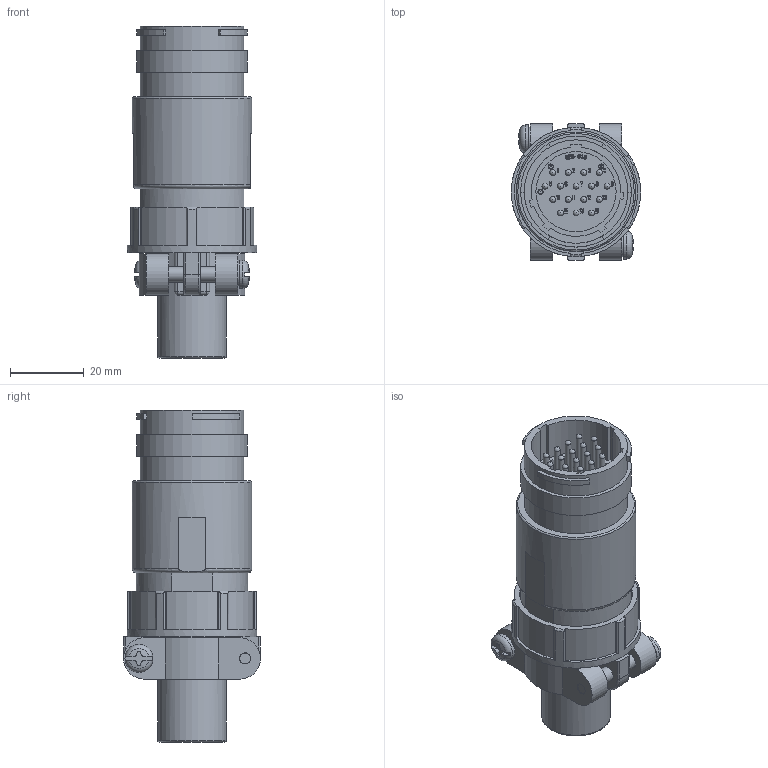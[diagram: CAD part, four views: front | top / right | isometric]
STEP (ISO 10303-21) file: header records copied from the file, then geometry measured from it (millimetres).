
FILE_DESCRIPTION (( 'STEP AP203' ), '1' );
FILE_NAME ('WEBCR2516M-1-D(R1).STEP', '2021-08-05T02:03:58', ( '' ), ( '' ), 'SwSTEP 2.0', 'SolidWorks 2018', '' );
FILE_SCHEMA (( 'CONFIG_CONTROL_DESIGN' ));
Products named in the file (1): WEBCR2516M-1-D(R1)
Bounding box: 35 x 37 x 89.8 mm (x, y, z)
Volume: 34584.3 mm3; surface area: 22925.3 mm2
Topology: 1 solids, 1 shells, 1396 faces, 3811 edges, 2517 vertices
Faces by surface type: plane 612, bspline 535, cylinder 183, cone 24, sphere 24, torus 18
Full cylindrical faces by diameter (mm): 1.2 x4, 1.4 x4, 1.6 x16, 1.7 x16, 2.4 x16, 2.8 x2, 3 x2, 4.1 x2, 4.3 x4, 7.6 x2, 16.03 x2, 17.8 x1, 18.64 x1, 19 x1, 21.3 x1, 21.7 x1, 23.2 x1, 23.6 x1, 27.96 x1, 28 x1, 30 x1, 30.5 x1, 32.3 x1, 35 x1
Entity records: 62948 total; most frequent: CARTESIAN_POINT 32121, ORIENTED_EDGE 7174, DIRECTION 4568, EDGE_CURVE 3587, VERTEX_POINT 2429, VECTOR 2026, LINE 2026, EDGE_LOOP 1656
